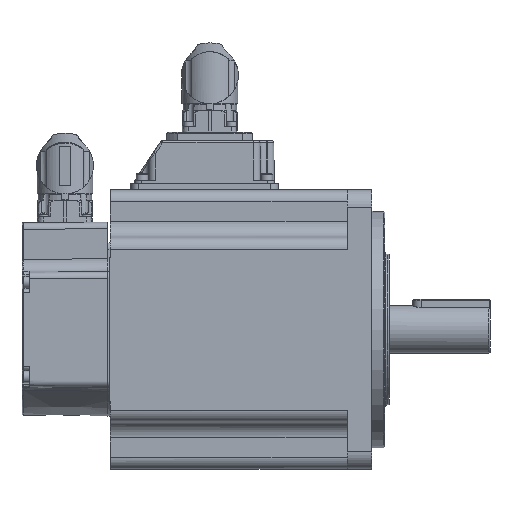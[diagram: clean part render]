
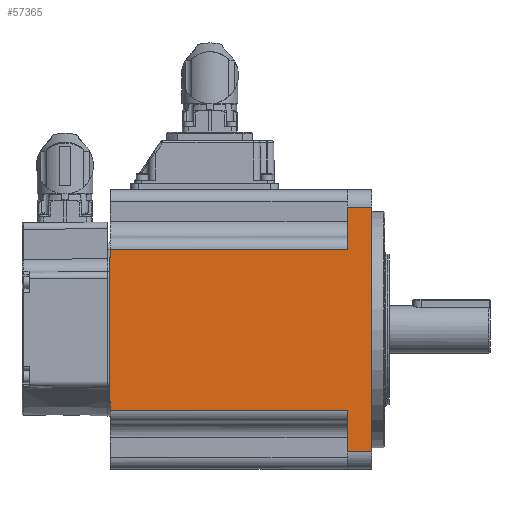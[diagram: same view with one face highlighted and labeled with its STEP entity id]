
A CAD part, left-side view. The second image highlights one B-rep face of the part: STEP entity #57365.
In plain terms, the highlighted planar face has unit normal (-1, 0, 0).
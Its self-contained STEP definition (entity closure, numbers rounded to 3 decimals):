
#57365 = ADVANCED_FACE( '', ( #66500 ), #66501, .T. );
#59069 = EDGE_CURVE( '', #69584, #69582, #69585, .T. );
#63047 = EDGE_CURVE( '', #75686, #69582, #75689, .T. );
#63351 = EDGE_CURVE( '', #69584, #76108, #76109, .T. );
#63670 = EDGE_CURVE( '', #76534, #76532, #76535, .T. );
#64265 = EDGE_CURVE( '', #77270, #77271, #77272, .T. );
#65396 = EDGE_CURVE( '', #78610, #76534, #78611, .T. );
#65792 = EDGE_CURVE( '', #75686, #77271, #79030, .F. );
#66500 = FACE_OUTER_BOUND( '', #79740, .T. );
#66501 = PLANE( '', #79741 );
#69582 = VERTEX_POINT( '', #86450 );
#69584 = VERTEX_POINT( '', #86452 );
#69585 = LINE( '', #86453, #86454 );
#75686 = VERTEX_POINT( '', #100148 );
#75689 = LINE( '', #100151, #100152 );
#76108 = VERTEX_POINT( '', #100924 );
#76109 = LINE( '', #100925, #100926 );
#76532 = VERTEX_POINT( '', #101914 );
#76534 = VERTEX_POINT( '', #101916 );
#76535 = LINE( '', #101917, #101918 );
#77270 = VERTEX_POINT( '', #103679 );
#77271 = VERTEX_POINT( '', #103680 );
#77272 = LINE( '', #103681, #103682 );
#78610 = VERTEX_POINT( '', #106623 );
#78611 = LINE( '', #106624, #106625 );
#79030 = LINE( '', #107202, #107203 );
#79740 = EDGE_LOOP( '', ( #108909, #108910, #108911, #108912, #108913, #108914, #108915, #108916, #108917 ) );
#79741 = AXIS2_PLACEMENT_3D( '', #108918, #108919, #108920 );
#86450 = CARTESIAN_POINT( '', ( -65., -15.5, -57. ) );
#86452 = CARTESIAN_POINT( '', ( -65., -4., -57. ) );
#86453 = CARTESIAN_POINT( '', ( -65., 292.464, -57. ) );
#86454 = VECTOR( '', #112154, 1000. );
#100148 = CARTESIAN_POINT( '', ( -65., -15.5, 57. ) );
#100151 = CARTESIAN_POINT( '', ( -65., -15.5, 65. ) );
#100152 = VECTOR( '', #116713, 1000. );
#100924 = CARTESIAN_POINT( '', ( -65., -4., -37.5 ) );
#100925 = CARTESIAN_POINT( '', ( -65., -4., 65. ) );
#100926 = VECTOR( '', #117053, 1000. );
#101914 = CARTESIAN_POINT( '', ( -65., 106.473, -37.5 ) );
#101916 = CARTESIAN_POINT( '', ( -65., 106.8, 0. ) );
#101917 = CARTESIAN_POINT( '', ( -65., 106.227, -65.623 ) );
#101918 = VECTOR( '', #117396, 1000. );
#103679 = CARTESIAN_POINT( '', ( -65., -4., 37.5 ) );
#103680 = CARTESIAN_POINT( '', ( -65., -4., 57. ) );
#103681 = CARTESIAN_POINT( '', ( -65., -4., 65. ) );
#103682 = VECTOR( '', #117924, 1000. );
#106623 = CARTESIAN_POINT( '', ( -65., 106.473, 37.5 ) );
#106624 = CARTESIAN_POINT( '', ( -65., 107.362, -64.367 ) );
#106625 = VECTOR( '', #118920, 1000. );
#107202 = CARTESIAN_POINT( '', ( -65., 292.464, 57. ) );
#107203 = VECTOR( '', #119124, 1000. );
#108909 = ORIENTED_EDGE( '', *, *, #119505, .T. );
#108910 = ORIENTED_EDGE( '', *, *, #65396, .T. );
#108911 = ORIENTED_EDGE( '', *, *, #63670, .T. );
#108912 = ORIENTED_EDGE( '', *, *, #119506, .T. );
#108913 = ORIENTED_EDGE( '', *, *, #63351, .F. );
#108914 = ORIENTED_EDGE( '', *, *, #59069, .T. );
#108915 = ORIENTED_EDGE( '', *, *, #63047, .F. );
#108916 = ORIENTED_EDGE( '', *, *, #65792, .T. );
#108917 = ORIENTED_EDGE( '', *, *, #64265, .F. );
#108918 = CARTESIAN_POINT( '', ( -65., 292.464, 65. ) );
#108919 = DIRECTION( '', ( -1., 0., 0. ) );
#108920 = DIRECTION( '', ( 0., 0., 1. ) );
#112154 = DIRECTION( '', ( 0., -1., 0. ) );
#116713 = DIRECTION( '', ( 0., 0., -1. ) );
#117053 = DIRECTION( '', ( 0., 0., 1. ) );
#117396 = DIRECTION( '', ( 0., -0.009, -1. ) );
#117924 = DIRECTION( '', ( 0., 0., 1. ) );
#118920 = DIRECTION( '', ( 0., 0.009, -1. ) );
#119124 = DIRECTION( '', ( 0., -1., 0. ) );
#119505 = EDGE_CURVE( '', #77270, #78610, #120471, .T. );
#119506 = EDGE_CURVE( '', #76532, #76108, #120472, .T. );
#120471 = LINE( '', #121927, #121928 );
#120472 = LINE( '', #121929, #121930 );
#121927 = CARTESIAN_POINT( '', ( -65., 292.464, 37.5 ) );
#121928 = VECTOR( '', #123345, 1000. );
#121929 = CARTESIAN_POINT( '', ( -65., 292.464, -37.5 ) );
#121930 = VECTOR( '', #123346, 1000. );
#123345 = DIRECTION( '', ( 0., 1., 0. ) );
#123346 = DIRECTION( '', ( 0., -1., 0. ) );
